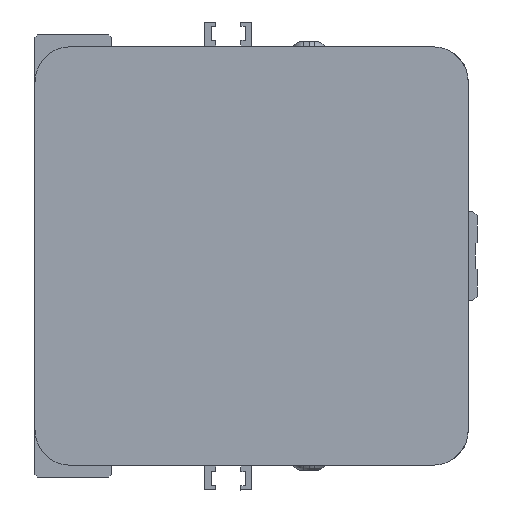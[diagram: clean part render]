
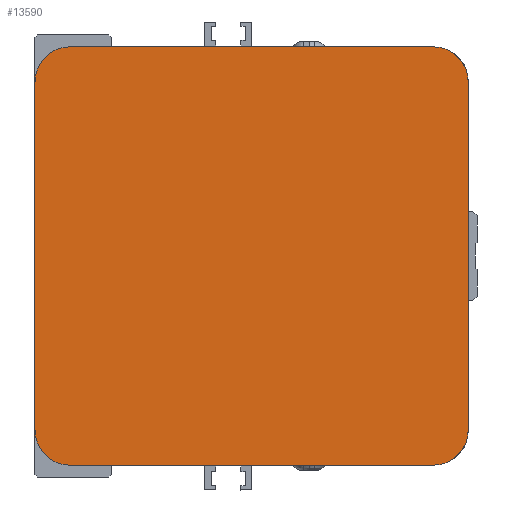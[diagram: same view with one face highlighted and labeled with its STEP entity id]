
A CAD part, left-side view. The second image highlights one B-rep face of the part: STEP entity #13590.
In plain terms, the highlighted planar face has unit normal (-1, 0, 0) as drawn and (0, 0, -1) by its records, which use the part's own axes.
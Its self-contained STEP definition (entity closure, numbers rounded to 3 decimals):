
#980=CIRCLE('',#14553,6.);
#981=CIRCLE('',#14558,6.);
#989=CIRCLE('',#14569,6.);
#990=CIRCLE('',#14571,6.);
#1654=FACE_OUTER_BOUND('',#2479,.T.);
#2479=EDGE_LOOP('',(#9478,#9479,#9480,#9481,#9482,#9483,#9484,#9485));
#3565=LINE('',#19057,#4825);
#3570=LINE('',#19068,#4830);
#3577=LINE('',#19083,#4837);
#3581=LINE('',#19168,#4841);
#4825=VECTOR('',#15771,61.5);
#4830=VECTOR('',#15782,59.);
#4837=VECTOR('',#15799,61.5);
#4841=VECTOR('',#15825,59.);
#6081=VERTEX_POINT('',#19053);
#6083=VERTEX_POINT('',#19056);
#6084=VERTEX_POINT('',#19061);
#6086=VERTEX_POINT('',#19067);
#6088=VERTEX_POINT('',#19078);
#6089=VERTEX_POINT('',#19082);
#6098=VERTEX_POINT('',#19163);
#6099=VERTEX_POINT('',#19167);
#7451=EDGE_CURVE('',#6083,#6081,#3565,.T.);
#7454=EDGE_CURVE('',#6083,#6084,#980,.T.);
#7457=EDGE_CURVE('',#6086,#6084,#3570,.T.);
#7463=EDGE_CURVE('',#6086,#6088,#981,.T.);
#7465=EDGE_CURVE('',#6089,#6088,#3577,.T.);
#7478=EDGE_CURVE('',#6098,#6081,#989,.T.);
#7479=EDGE_CURVE('',#6098,#6099,#3581,.T.);
#7480=EDGE_CURVE('',#6089,#6099,#990,.T.);
#9478=ORIENTED_EDGE('',*,*,#7463,.F.);
#9479=ORIENTED_EDGE('',*,*,#7457,.T.);
#9480=ORIENTED_EDGE('',*,*,#7454,.F.);
#9481=ORIENTED_EDGE('',*,*,#7451,.T.);
#9482=ORIENTED_EDGE('',*,*,#7478,.F.);
#9483=ORIENTED_EDGE('',*,*,#7479,.T.);
#9484=ORIENTED_EDGE('',*,*,#7480,.F.);
#9485=ORIENTED_EDGE('',*,*,#7465,.T.);
#13078=PLANE('',#14570);
#13590=ADVANCED_FACE('',(#1654),#13078,.F.);
#14553=AXIS2_PLACEMENT_3D('',#19062,#15776,#15777);
#14558=AXIS2_PLACEMENT_3D('',#19079,#15794,#15795);
#14569=AXIS2_PLACEMENT_3D('',#19165,#15821,#15822);
#14570=AXIS2_PLACEMENT_3D('',#19166,#15823,#15824);
#14571=AXIS2_PLACEMENT_3D('',#19169,#15826,#15827);
#15771=DIRECTION('',(0.,-1.,0.));
#15776=DIRECTION('center_axis',(0.,0.,
1.));
#15777=DIRECTION('ref_axis',(0.707,0.707,0.));
#15782=DIRECTION('',(1.,0.,0.));
#15794=DIRECTION('center_axis',(0.,0.,
1.));
#15795=DIRECTION('ref_axis',(-0.707,0.707,0.));
#15799=DIRECTION('',(0.,1.,0.));
#15821=DIRECTION('center_axis',(0.,0.,
1.));
#15822=DIRECTION('ref_axis',(0.707,-0.707,0.));
#15823=DIRECTION('center_axis',(0.,0.,
1.));
#15824=DIRECTION('ref_axis',(1.,0.,0.));
#15825=DIRECTION('',(-1.,0.,0.));
#15826=DIRECTION('center_axis',(0.,0.,
1.));
#15827=DIRECTION('ref_axis',(-0.707,-0.707,0.));
#19053=CARTESIAN_POINT('',(75.2,7.5,-457.));
#19056=CARTESIAN_POINT('',(75.2,69.,-457.));
#19057=CARTESIAN_POINT('',(75.2,69.,-457.));
#19061=CARTESIAN_POINT('',(69.2,75.,-457.));
#19062=CARTESIAN_POINT('Origin',(69.2,69.,-457.));
#19067=CARTESIAN_POINT('',(10.2,75.,-457.));
#19068=CARTESIAN_POINT('',(10.2,75.,-457.));
#19078=CARTESIAN_POINT('',(4.2,69.,-457.));
#19079=CARTESIAN_POINT('Origin',(10.2,69.,-457.));
#19082=CARTESIAN_POINT('',(4.2,7.5,-457.));
#19083=CARTESIAN_POINT('',(4.2,7.5,-457.));
#19163=CARTESIAN_POINT('',(69.2,1.5,-457.));
#19165=CARTESIAN_POINT('Origin',(69.2,7.5,-457.));
#19166=CARTESIAN_POINT('Origin',(39.7,38.25,-457.));
#19167=CARTESIAN_POINT('',(10.2,1.5,-457.));
#19168=CARTESIAN_POINT('',(69.2,1.5,-457.));
#19169=CARTESIAN_POINT('Origin',(10.2,7.5,-457.));
